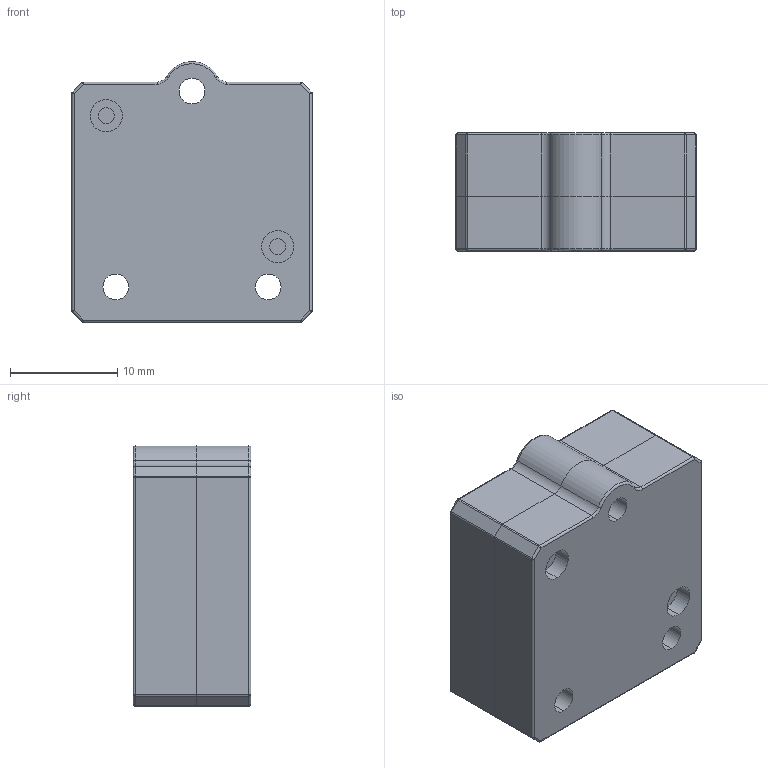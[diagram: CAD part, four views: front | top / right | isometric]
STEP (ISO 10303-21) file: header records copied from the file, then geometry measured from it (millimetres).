
FILE_DESCRIPTION (( 'STEP AP203' ), '1' );
FILE_NAME ('LpmsHR-ASM-20250826.STEP', '2025-08-26T08:45:52', ( '' ), ( '' ), 'SwSTEP 2.0', 'SolidWorks 2025', '' );
FILE_SCHEMA (( 'CONFIG_CONTROL_DESIGN' ));
Length unit declared in the file: millimetre
Products named in the file (1): LpmsHR-ASM-20250826
Bounding box: 22.4 x 11 x 24.29 mm (x, y, z)
Surface area: 2809.9 mm2 (no closed solid volume)
Topology: 0 solids, 4 shells, 249 faces, 846 edges, 580 vertices
Faces by surface type: plane 136, cylinder 74, sphere 18, torus 14, bspline 7
Entity records: 8497 total; most frequent: CARTESIAN_POINT 2213, ORIENTED_EDGE 1330, DIRECTION 1020, EDGE_CURVE 828, VERTEX_POINT 580, B_SPLINE_CURVE_WITH_KNOTS 452, AXIS2_PLACEMENT_3D 421, EDGE_LOOP 272
